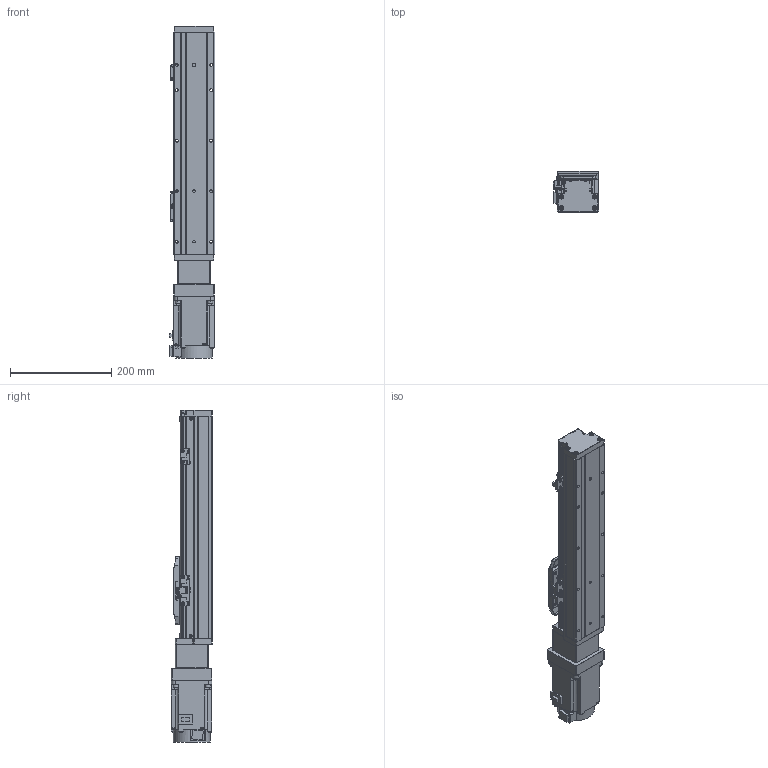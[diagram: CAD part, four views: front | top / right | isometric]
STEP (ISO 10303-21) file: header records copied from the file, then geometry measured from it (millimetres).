
FILE_DESCRIPTION (( 'STEP AP203' ), '1' );
FILE_NAME ('GTH8-250-BC-M75-C4.step', '2023-02-14T02:18:53', ( '微软用户' ), ( '微软中国' ), 'SwSTEP 2.0', 'SolidWorks 2020', '' );
FILE_SCHEMA (( 'CONFIG_CONTROL_DESIGN' ));
Length unit declared in the file: millimetre
Products named in the file (19): CTHA86-027; GTH80-006; GTH50-024; hg-kn73j_-s100; GTH80-013; GTH50-023; GTH8-250-BC-M75-C4; GBT 70.3-M3℅6; GBT96.1-2002 3×0.8; GTH80-022; BTH-M3X5X6; GTH80-001_250; GBT 70.1-M3℅6; CTHA86-006-1_CTHA86-006-4; GTH80-003; GBT 70.1-M4×16; CTHA86-013; GTH80-004; GTH80-028
Assembly tree (60 placements, depth 2):
  GTH8-250-BC-M75-C4
    GTH80-001_250
    GTH80-003
    GTH80-004
    GTH80-006
    GTH80-013
    GBT 70.3-M3℅6  x6
    GTH80-022
    GBT 70.1-M3℅6  x14
    GBT 70.1-M4×16  x8
    GTH80-028  x2
    GTH50-024  x3
    GTH50-023  x3
    GBT96.1-2002 3×0.8  x6
    BTH-M3X5X6  x8
    CTHA86-006-1_CTHA86-006-4
    CTHA86-013
    CTHA86-027
    hg-kn73j_-s100
Bounding box: 89.8 x 81.72 x 657.2 mm (x, y, z)
Volume: 3133083.6 mm3; surface area: 359881.2 mm2
Topology: 62 solids, 62 shells, 2245 faces, 5162 edges, 3144 vertices
Faces by surface type: plane 1185, cylinder 603, cone 285, torus 162, sphere 8, bspline 2
Entity records: 39193 total; most frequent: CARTESIAN_POINT 6458, DIRECTION 6447, ORIENTED_EDGE 5914, EDGE_CURVE 2957, AXIS2_PLACEMENT_3D 2251, VECTOR 1945, LINE 1945, VERTEX_POINT 1857
